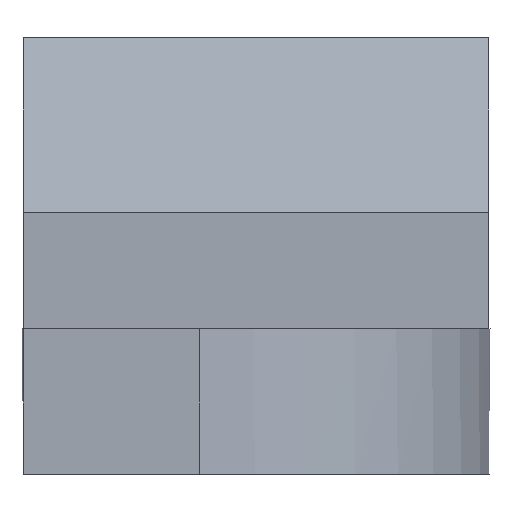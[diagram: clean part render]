
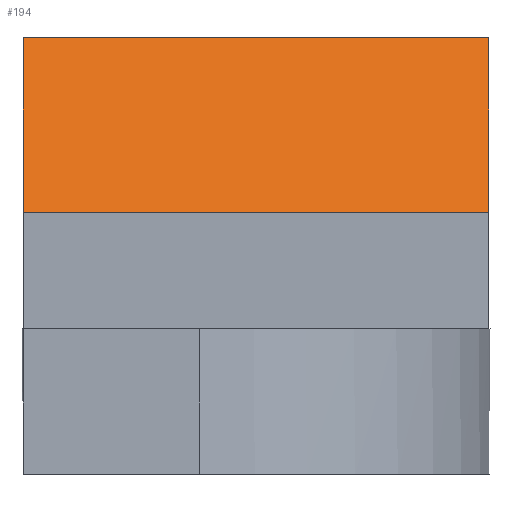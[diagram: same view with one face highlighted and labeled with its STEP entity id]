
A CAD part, left-side view. The second image highlights one B-rep face of the part: STEP entity #194.
In plain terms, the highlighted planar face has unit normal (-0.707, 0, 0.707).
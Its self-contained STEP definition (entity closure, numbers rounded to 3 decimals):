
#5 = CARTESIAN_POINT ( 'NONE',  ( -6.441, 5.316, 5. ) ) ;
#60 = CARTESIAN_POINT ( 'NONE',  ( -9.441, 5.316, 2. ) ) ;
#72 = EDGE_CURVE ( 'NONE', #360, #253, #350, .T. ) ;
#112 = ORIENTED_EDGE ( 'NONE', *, *, #231, .F. ) ;
#120 = ORIENTED_EDGE ( 'NONE', *, *, #362, .F. ) ;
#134 = DIRECTION ( 'NONE',  ( 0., -1., 0. ) ) ;
#136 = CARTESIAN_POINT ( 'NONE',  ( -7.941, 5.316, 3.5 ) ) ;
#145 = FACE_OUTER_BOUND ( 'NONE', #371, .T. ) ;
#170 = CARTESIAN_POINT ( 'NONE',  ( -6.441, 0., 5. ) ) ;
#182 = VECTOR ( 'NONE', #568, 1000. ) ;
#191 = LINE ( 'NONE', #136, #182 ) ;
#193 = LINE ( 'NONE', #380, #314 ) ;
#194 = ADVANCED_FACE ( 'NONE', ( #145 ), #515, .T. ) ;
#224 = CARTESIAN_POINT ( 'NONE',  ( -9.441, -2.684, 2. ) ) ;
#231 = EDGE_CURVE ( 'NONE', #262, #360, #273, .T. ) ;
#253 = VERTEX_POINT ( 'NONE', #315 ) ;
#262 = VERTEX_POINT ( 'NONE', #522 ) ;
#263 = DIRECTION ( 'NONE',  ( 0., 1., 0. ) ) ;
#273 = LINE ( 'NONE', #607, #395 ) ;
#297 = AXIS2_PLACEMENT_3D ( 'NONE', #170, #562, #263 ) ;
#314 = VECTOR ( 'NONE', #134, 1000. ) ;
#315 = CARTESIAN_POINT ( 'NONE',  ( -9.441, 5.316, 2. ) ) ;
#349 = DIRECTION ( 'NONE',  ( 0., 1., 0. ) ) ;
#350 = LINE ( 'NONE', #60, #594 ) ;
#360 = VERTEX_POINT ( 'NONE', #224 ) ;
#362 = EDGE_CURVE ( 'NONE', #463, #262, #193, .T. ) ;
#371 = EDGE_LOOP ( 'NONE', ( #584, #407, #112, #120 ) ) ;
#380 = CARTESIAN_POINT ( 'NONE',  ( -6.441, -2.684, 5. ) ) ;
#395 = VECTOR ( 'NONE', #418, 1000. ) ;
#407 = ORIENTED_EDGE ( 'NONE', *, *, #72, .F. ) ;
#418 = DIRECTION ( 'NONE',  ( -0.707, 0., -0.707 ) ) ;
#426 = EDGE_CURVE ( 'NONE', #253, #463, #191, .T. ) ;
#463 = VERTEX_POINT ( 'NONE', #5 ) ;
#515 = PLANE ( 'NONE',  #297 ) ;
#522 = CARTESIAN_POINT ( 'NONE',  ( -6.441, -2.684, 5. ) ) ;
#562 = DIRECTION ( 'NONE',  ( -0.707, 0., 0.707 ) ) ;
#568 = DIRECTION ( 'NONE',  ( 0.707, 0., 0.707 ) ) ;
#584 = ORIENTED_EDGE ( 'NONE', *, *, #426, .F. ) ;
#594 = VECTOR ( 'NONE', #349, 1000. ) ;
#607 = CARTESIAN_POINT ( 'NONE',  ( -6.441, -2.684, 5. ) ) ;
